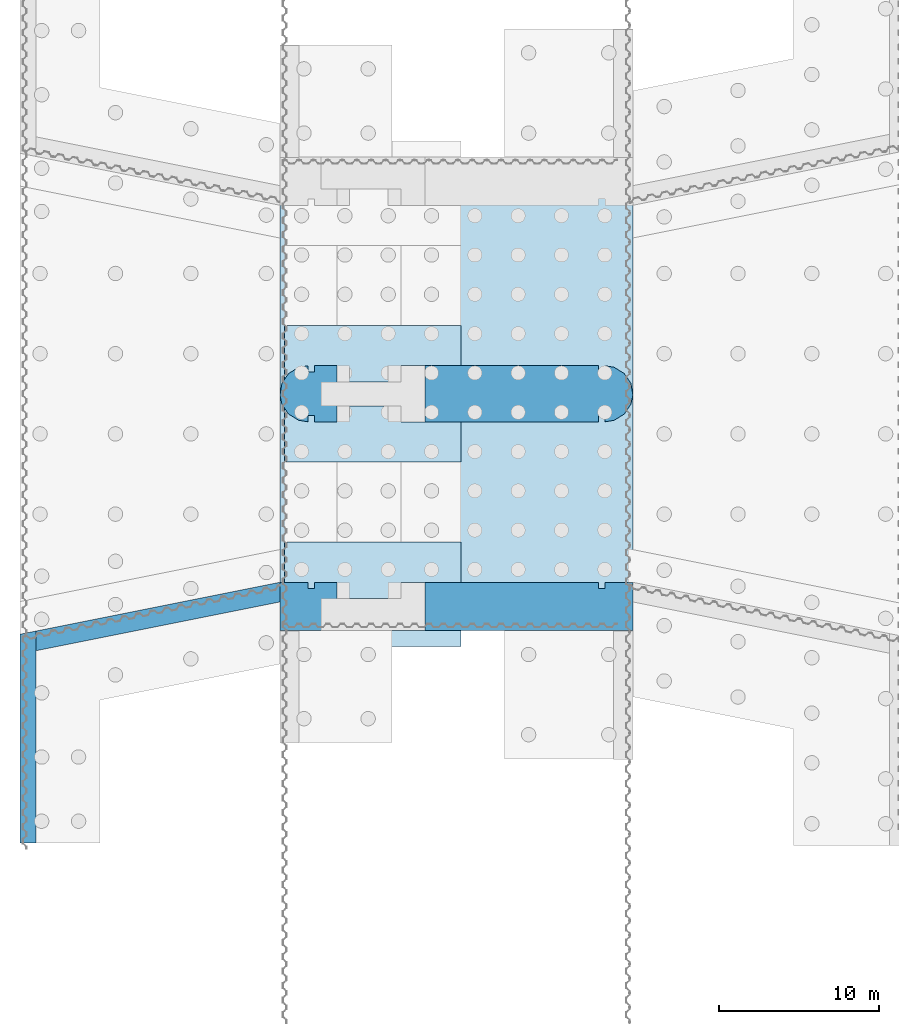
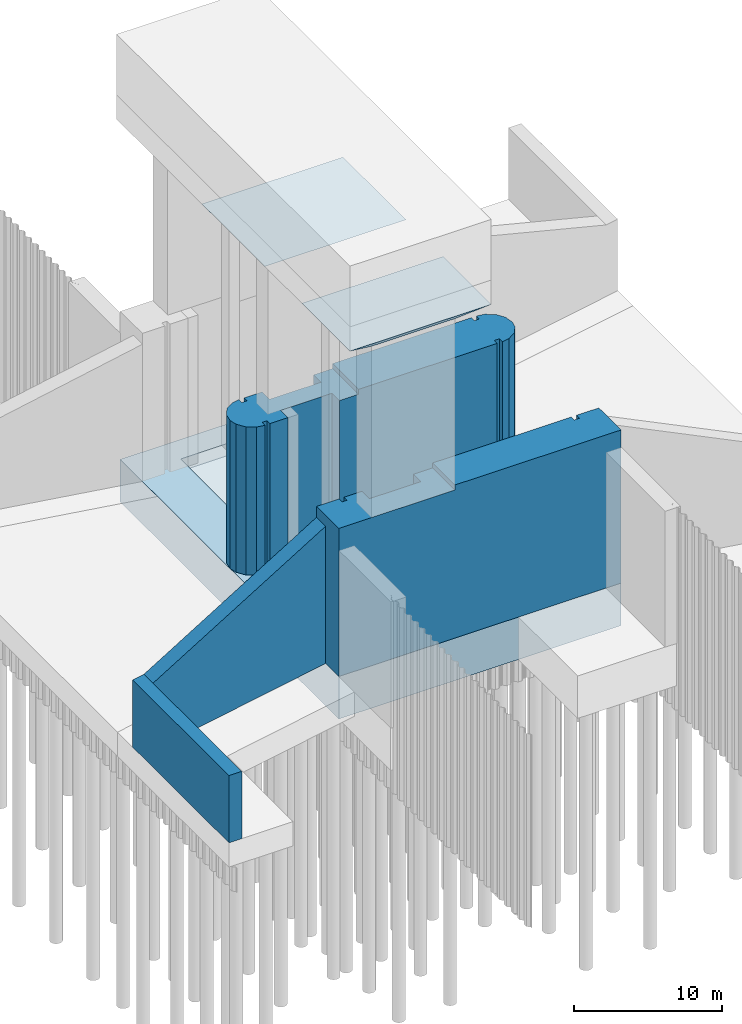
# One storey, part 8 of 9: 6 slabs.
"""IFC2X3 building model written with IfcOpenShell, lengths in millimetres."""

from ifc_helpers import new_model, entity, si_unit, converted_unit, derived_unit, direction, frame, origin, place, context, subcontext, project, spatial, faceted_brep, material, type_object, element, save


model = new_model("IFC2X3")

# Units and contexts
model_context = context("Model", 3, precision=0.01, world=origin(), true_north=direction((6.12303176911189e-17, 1.0)))
body_context = subcontext(model_context, "Body", "Model", "MODEL_VIEW")
ifc_project = project(units=[si_unit("LENGTHUNIT", "METRE", prefix="MILLI"), si_unit("AREAUNIT", "SQUARE_METRE"), si_unit("VOLUMEUNIT", "CUBIC_METRE"), converted_unit("PLANEANGLEUNIT", "DEGREE", entity("IfcRatioMeasure", 0.0174532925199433), si_unit("PLANEANGLEUNIT", "RADIAN"), dimensions=[0, 0, 0, 0, 0, 0, 0]), si_unit("MASSUNIT", "GRAM", prefix="KILO"), derived_unit("MASSDENSITYUNIT", [(si_unit("MASSUNIT", "GRAM", prefix="KILO"), 1), (si_unit("LENGTHUNIT", "METRE"), -3)]), si_unit("TIMEUNIT", "SECOND"), si_unit("FREQUENCYUNIT", "HERTZ"), si_unit("THERMODYNAMICTEMPERATUREUNIT", "DEGREE_CELSIUS"), derived_unit("THERMALTRANSMITTANCEUNIT", [(si_unit("MASSUNIT", "GRAM", prefix="KILO"), 1), (si_unit("THERMODYNAMICTEMPERATUREUNIT", "KELVIN"), -1), (si_unit("TIMEUNIT", "SECOND"), -3)]), derived_unit("VOLUMETRICFLOWRATEUNIT", [(si_unit("LENGTHUNIT", "METRE"), 3), (si_unit("TIMEUNIT", "SECOND"), -1)]), si_unit("ELECTRICCURRENTUNIT", "AMPERE"), si_unit("ELECTRICVOLTAGEUNIT", "VOLT"), si_unit("POWERUNIT", "WATT"), si_unit("FORCEUNIT", "NEWTON", prefix="KILO"), si_unit("ILLUMINANCEUNIT", "LUX"), si_unit("LUMINOUSFLUXUNIT", "LUMEN"), si_unit("LUMINOUSINTENSITYUNIT", "CANDELA"), derived_unit("USERDEFINED", [(si_unit("MASSUNIT", "GRAM", prefix="KILO"), -1), (si_unit("LENGTHUNIT", "METRE"), -2), (si_unit("TIMEUNIT", "SECOND"), 3), (si_unit("LUMINOUSFLUXUNIT", "LUMEN"), 1)]), derived_unit("LINEARVELOCITYUNIT", [(si_unit("LENGTHUNIT", "METRE"), 1), (si_unit("TIMEUNIT", "SECOND"), -1)]), si_unit("PRESSUREUNIT", "PASCAL"), derived_unit("USERDEFINED", [(si_unit("LENGTHUNIT", "METRE"), -2), (si_unit("MASSUNIT", "GRAM", prefix="KILO"), 1), (si_unit("TIMEUNIT", "SECOND"), -2)])], contexts=[model_context])

# Site, building, storey
site_placement = place(None, origin())
site = spatial("IfcSite", under=ifc_project, at=site_placement, Name="Default", CompositionType="ELEMENT")
building_placement = place(site_placement, origin())
building = spatial("IfcBuilding", under=site, at=building_placement, CompositionType="ELEMENT")
storey_placement = place(building_placement, origin())
storey = spatial("IfcBuildingStorey", under=building, at=storey_placement, Name="設計GL", CompositionType="ELEMENT", Elevation=0.0)

# Slabs
ifc_material = material(Name="コンクリート - 現場打ちコンクリート")
slab_type_1 = type_object("IfcSlabType", Name="40001_Co_底版", PredefinedType="FLOOR", material=ifc_material)
slab_1_placement = place(storey_placement, frame((-53111.2636910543, -76292.3079312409, 710.0)))
element("IfcSlab", 1, at=slab_1_placement, inside=storey, type_object=slab_type_1, Name="40001_Co_底版:40001_Co_底版", ObjectType="40001_Co_底版:40001_Co_底版", PredefinedType="FLOOR", context=body_context, shape_type="Brep", body=[
    faceted_brep([(21999.6438906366, 29500.1835320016, 3500.0), (21999.6438906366, 0.0, 3500.0), (21999.6438906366, 0.0, 0.0), (21999.6438906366, 29500.1835320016, 0.0), (0.0, 0.0, 3500.0), (0.0, 0.0, 0.0), (0.0, 29500.1835320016, 0.0), (0.0, 29500.1835320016, 3500.0), (3549.64388791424, 27500.1835320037, 3500.0), (3549.64388791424, 15500.1835320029, 3500.0), (3549.64388791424, 15500.1835320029, 2500.0), (3549.64388791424, 27500.1835320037, 2500.0), (7549.64388791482, 27500.1835320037, 3500.0), (7549.64388791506, 15500.1835320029, 3500.0), (7549.64388791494, 14000.1835320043, 3500.0), (7549.64388791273, 2000.18353200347, 3500.0), (3549.64388791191, 2000.18353200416, 3500.0), (3549.64388791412, 14000.183532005, 3500.0), (7549.64388791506, 15500.1835320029, 2500.0), (7549.64388791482, 27500.1835320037, 2500.0), (7549.64388791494, 14000.1835320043, 2500.0), (7549.64388791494, 2000.18353200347, 2500.0), (3549.64388791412, 14000.183532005, 2500.0), (3549.64388791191, 2000.18353200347, 2500.0)], [[[0, 1, 2, 3]], [[1, 4, 5, 2]], [[2, 5, 6, 3]], [[7, 0, 3, 6]], [[4, 7, 6, 5]], [[8, 9, 10, 11]], [[4, 1, 0, 7], [9, 8, 12, 13], [14, 15, 16, 17]], [[9, 13, 18, 10]], [[19, 11, 10, 18]], [[12, 8, 11, 19]], [[13, 12, 19, 18]], [[15, 14, 20, 21]], [[14, 17, 22, 20]], [[23, 21, 20, 22]], [[16, 15, 21, 23]], [[17, 16, 23, 22]]]),
])
slab_type_2 = type_object("IfcSlabType", Name="41101_Co_端堰柱(下流)", PredefinedType="FLOOR", material=ifc_material)
slab_2_placement = place(storey_placement, frame((-53111.2636910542, -76292.3079312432, 4210.0)))
element("IfcSlab", 2, at=slab_2_placement, inside=storey, type_object=slab_type_2, Name="41101_Co_端堰柱(下流):41101_Co_端堰柱(下流)", ObjectType="41101_Co_端堰柱(下流):41101_Co_端堰柱(下流)", PredefinedType="FLOOR", context=body_context, shape_type="Brep", body=[
    faceted_brep([(9050.0, 1.35141817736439e-09, 12200.0), (9050.0, 3000.0, 12200.0), (7550.0, 3000.0, 12200.0), (7550.0, 2000.0, 12200.0), (3550.0, 2000.0, 12200.0), (3550.0, 3000.0, 12200.0), (2150.0, 3000.0, 12200.0), (2150.0, 2600.0, 12200.0), (1750.0, 2600.0, 12200.0), (1750.0, 3000.0, 12200.0), (0.0, 3000.0, 12200.0), (0.0, 2.31300418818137e-09, 12200.0), (1750.0, 3000.0, 0.0), (0.0, 3000.0, 0.0), (1750.0, 2600.0, 0.0), (2150.0, 2600.0, 0.0), (2150.0, 3000.0, 0.0), (3550.0, 3000.0, 0.0), (3550.0, 2000.0, 0.0), (7550.0, 2000.0, 0.0), (7550.0, 3000.0, 0.0), (0.0, 2.31300418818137e-09, 0.0), (19850.0, 3000.0, 0.0), (19850.0, 2600.0, 0.0), (20250.0, 2600.0, 0.0), (20250.0, 3000.0, 0.0), (22000.0, 3000.0, 0.0), (22000.0, 0.0, 0.0), (22000.0, 3000.0, 12610.0), (22000.0, 0.0, 12610.0), (9050.0, 1.35141817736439e-09, 12610.0), (9050.0, 3000.0, 12610.0), (19850.0, 3000.0, 12610.0), (19850.0, 2600.0, 12610.0), (20250.0, 2600.0, 12610.0), (20250.0, 3000.0, 12610.0)], [[[0, 1, 2, 3, 4, 5, 6, 7, 8, 9, 10, 11]], [[12, 13, 10, 9]], [[14, 12, 9, 8]], [[15, 14, 8, 7]], [[16, 15, 7, 6]], [[17, 16, 6, 5]], [[18, 17, 5, 4]], [[19, 18, 4, 3]], [[20, 19, 3, 2]], [[13, 21, 11, 10]], [[21, 13, 12, 14, 15, 16, 17, 18, 19, 20, 22, 23, 24, 25, 26, 27]], [[26, 28, 29, 27]], [[27, 29, 30, 0, 11, 21]], [[1, 0, 30, 31]], [[1, 31, 32, 22, 20, 2]], [[22, 32, 33, 23]], [[23, 33, 34, 24]], [[24, 34, 35, 25]], [[25, 35, 28, 26]], [[28, 35, 34, 33, 32, 31, 30, 29]]]),
])
slab_type_3 = type_object("IfcSlabType", Name="41201_Co_中央堰柱", PredefinedType="FLOOR", material=ifc_material)
slab_3_placement = place(storey_placement, frame((-53111.2821539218, -63293.9032035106, 4210.0)))
element("IfcSlab", 3, at=slab_3_placement, inside=storey, type_object=slab_type_3, Name="41201_Co_中央堰柱:41201_Co_中央堰柱", ObjectType="41201_Co_中央堰柱:41201_Co_中央堰柱", PredefinedType="FLOOR", context=body_context, shape_type="Brep", body=[
    faceted_brep([(1750.01846309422, 401.595272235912, 12200.0), (2150.01846309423, 401.59527223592, 12200.0), (2150.01846309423, 1.59527223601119, 12200.0), (3550.01846583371, 1.59527223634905, 12200.0), (3550.01846583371, 1001.59527223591, 12200.0), (7550.01846583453, 1001.59527223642, 12200.0), (7550.01846583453, 1.59527223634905, 12200.0), (9050.01846289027, 1.59527226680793, 12200.0), (9050.01846289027, 3501.59527223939, 12200.0), (7550.01846583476, 3501.59527223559, 12200.0), (7550.01846583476, 2501.59527223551, 12200.0), (3550.01846583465, 2501.59527226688, 12200.0), (3550.01846583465, 3501.59527226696, 12200.0), (2150.01846309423, 3501.59527223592, 12200.0), (2150.01846309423, 3101.5952722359, 12200.0), (1750.01846309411, 3101.59527223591, 12200.0), (1750.01846309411, 3501.59527223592, 12200.0), (1458.52114269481, 3451.61303701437, 12200.0), (1167.02382229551, 3401.63080179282, 12200.0), (853.074632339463, 3208.32461922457, 12200.0), (539.125442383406, 3015.01843665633, 12200.0), (332.669053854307, 2709.5562725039, 12200.0), (126.212665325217, 2404.09410835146, 12200.0), (63.9039687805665, 2040.70863749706, 12200.0), (1.5952722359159, 1677.32316664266, 12200.0), (63.9039687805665, 1388.20980138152, 12200.0), (126.212665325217, 1099.09643612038, 12200.0), (332.669053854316, 793.634271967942, 12200.0), (539.125442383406, 488.1721078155, 12200.0), (853.074632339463, 294.865925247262, 12200.0), (1167.02382229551, 101.559742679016, 12200.0), (1458.5211426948, 51.5775074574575, 12200.0), (1750.018463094, 1.5952722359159, 12200.0), (7550.01846583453, 1001.59527223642, 0.0), (7550.01846583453, 1.59527223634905, 0.0), (7550.01846583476, 3501.59527223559, 0.0), (7550.01846583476, 2501.59527223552, 0.0), (3550.01846583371, 1001.59527223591, 0.0), (3550.01846583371, 1.59527223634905, 0.0), (3550.01846583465, 2501.59527226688, 0.0), (3550.01846583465, 3501.59527226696, 0.0), (2150.01846309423, 1.59527223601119, 0.0), (19850.0184668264, 1.59527226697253, 0.0), (19850.0184668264, 1.59527226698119, 12610.0), (9050.01846289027, 1.59527226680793, 12610.0), (2150.01846309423, 401.59527223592, 0.0), (2150.01846309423, 3501.59527223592, 0.0), (2150.01846309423, 3101.5952722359, 0.0), (1750.01846309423, 401.59527223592, 0.0), (19850.0184668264, 401.595272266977, 12610.0), (19850.0184668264, 401.595272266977, 0.0), (20250.0184685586, 401.595272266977, 0.0), (20250.0184685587, 401.595272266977, 12610.0), (1750.018463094, 1.5952722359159, 0.0), (1750.01846309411, 3101.59527223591, 0.0), (1750.01846309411, 3501.59527223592, 0.0), (1458.52114269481, 3451.61303701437, 0.0), (1167.02382229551, 3401.63080179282, 0.0), (853.074632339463, 3208.32461922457, 0.0), (539.125442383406, 3015.01843665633, 0.0), (1.5952722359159, 1677.32316664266, 0.0), (63.9039687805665, 1388.20980138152, 0.0), (126.212665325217, 1099.09643612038, 0.0), (332.669053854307, 2709.5562725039, 0.0), (126.212665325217, 2404.09410835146, 0.0), (63.9039687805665, 2040.70863749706, 0.0), (332.669053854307, 793.634271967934, 0.0), (539.125442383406, 488.1721078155, 0.0), (1353.85820144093, 69.5237710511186, 0.0), (1167.02382229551, 101.559742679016, 0.0), (853.074632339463, 294.865925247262, 0.0), (20250.0184685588, 3101.59527226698, 12610.0), (20250.0184685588, 3101.59527226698, 0.0), (19850.0184668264, 3101.59527226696, 0.0), (19850.0184668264, 3101.59527226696, 12610.0), (19850.0184668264, 3501.59527226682, 12610.0), (19850.0184668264, 3501.59527226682, 0.0), (9050.01846289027, 3501.59527223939, 12610.0), (20250.0184685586, 3501.59527226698, 0.0), (20541.5157889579, 3451.61303704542, 0.0), (20833.0131093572, 3401.63080182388, 0.0), (21146.9622993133, 3208.32461925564, 0.0), (21460.9114892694, 3015.0184366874, 0.0), (21667.3678777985, 2709.55627253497, 0.0), (21873.8242663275, 2404.09410838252, 0.0), (21936.1329628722, 2040.70863752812, 0.0), (21998.4416594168, 1677.32316667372, 0.0), (21936.1329628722, 1388.20980141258, 0.0), (21873.8242663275, 1099.09643615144, 0.0), (21667.3678777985, 793.634271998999, 0.0), (21460.9114892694, 488.172107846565, 0.0), (21146.9622993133, 294.865925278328, 0.0), (20833.0131093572, 101.559742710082, 0.0), (20541.515788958, 51.5775074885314, 0.0), (20250.0184685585, 1.59527226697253, 0.0), (20541.515788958, 51.5775074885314, 12610.0), (20250.0184685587, 1.59527226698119, 12610.0), (20833.0131093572, 101.559742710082, 12610.0), (21460.9114892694, 488.172107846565, 12610.0), (21873.8242663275, 1099.09643615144, 12610.0), (21667.3678777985, 793.634271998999, 12610.0), (21146.9622993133, 294.865925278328, 12610.0), (21460.9114892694, 3015.0184366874, 12610.0), (20833.0131093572, 3401.63080182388, 12610.0), (21146.9622993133, 3208.32461925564, 12610.0), (21936.1329628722, 1388.20980141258, 12610.0), (21998.4416594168, 1677.32316667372, 12610.0), (21873.8242663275, 2404.09410838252, 12610.0), (21936.1329628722, 2040.70863752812, 12610.0), (21667.3678777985, 2709.55627253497, 12610.0), (20250.0184685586, 3501.59527226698, 12610.0), (20633.2980238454, 3435.8753923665, 12610.0)], [[[0, 1, 2, 3, 4, 5, 6, 7, 8, 9, 10, 11, 12, 13, 14, 15, 16, 17, 18, 19, 20, 21, 22, 23, 24, 25, 26, 27, 28, 29, 30, 31, 32]], [[5, 33, 34, 6]], [[9, 35, 36, 10]], [[4, 37, 33, 5]], [[3, 38, 37, 4]], [[11, 39, 40, 12]], [[2, 41, 38, 3]], [[7, 6, 34, 42, 43, 44]], [[1, 45, 41, 2]], [[13, 46, 47, 14]], [[0, 48, 45, 1]], [[49, 50, 51, 52]], [[32, 53, 48, 0]], [[15, 54, 55, 16]], [[55, 56, 57, 18, 17, 16]], [[20, 19, 18, 57, 58, 59]], [[25, 24, 60, 61, 62, 26]], [[59, 63, 64, 22, 21, 20]], [[24, 23, 22, 64, 65, 60]], [[66, 67, 28, 27, 26, 62]], [[68, 53, 32, 31, 30, 69]], [[67, 70, 69, 30, 29, 28]], [[14, 47, 54, 15]], [[71, 72, 73, 74]], [[12, 40, 46, 13]], [[75, 76, 35, 9, 8, 77]], [[10, 36, 39, 11]], [[48, 53, 68, 69, 70, 67, 66, 62, 61, 60, 65, 64, 63, 59, 58, 57, 56, 55, 54, 47, 46, 40, 39, 36, 35, 76, 73, 72, 78, 79, 80, 81, 82, 83, 84, 85, 86, 87, 88, 89, 90, 91, 92, 93, 94, 51, 50, 42, 34, 33, 37, 38, 41, 45]], [[95, 96, 94, 93, 92, 97]], [[98, 90, 89, 88, 99, 100]], [[90, 98, 101, 97, 92, 91]], [[102, 82, 81, 80, 103, 104]], [[105, 99, 88, 87, 86, 106]], [[84, 107, 108, 106, 86, 85]], [[109, 107, 84, 83, 82, 102]], [[79, 78, 110, 111, 103, 80]], [[52, 51, 94, 96]], [[110, 78, 72, 71]], [[43, 42, 50, 49]], [[74, 73, 76, 75]], [[77, 8, 7, 44]], [[44, 43, 49, 52, 96, 95, 97, 101, 98, 100, 99, 105, 106, 108, 107, 109, 102, 104, 103, 111, 110, 71, 74, 75, 77]]]),
])
slab_type_4 = type_object("IfcSlabType", Name="41801_Co_川表翼壁(下流)側壁", PredefinedType="FLOOR", material=ifc_material)
slab_4_placement = place(storey_placement, frame((-69312.6693128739, -89532.3079312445, 4210.0)))
element("IfcSlab", 4, at=slab_4_placement, inside=storey, type_object=slab_type_4, Name="41801_Co_川表翼壁(下流)側壁:41801_Co_川表翼壁(下流)側壁", ObjectType="41801_Co_川表翼壁(下流)側壁:41801_Co_川表翼壁(下流)側壁", PredefinedType="FLOOR", context=body_context, shape_type="Brep", body=[
    faceted_brep([(1000.0, 11976.2353167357, 0.0), (1000.0, 11976.2353167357, 5540.0), (1000.0, 0.0, 5540.0), (1000.0, 0.0, 0.0), (0.0, 0.0, 0.0), (0.0, 0.0, 5540.0), (0.0, 13000.0, 0.0), (0.0, 13000.0, 5540.0), (1000.0, 13200.0, 5540.0), (16200.0, 16240.0, 11300.0), (16200.0, 16240.0, 0.0), (16200.0, 15016.2353167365, 11300.0), (16200.0, 15016.2353167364, 0.0)], [[[0, 1, 2, 3]], [[4, 3, 2, 5]], [[6, 4, 5, 7]], [[7, 5, 2, 1, 8]], [[8, 9, 10, 6, 7]], [[11, 1, 0, 12]], [[1, 11, 9, 8]], [[11, 12, 10, 9]], [[12, 0, 3, 4, 6, 10]]]),
])
slab_type_5 = type_object("IfcSlabType", Name="60401_Co_操作台(中央)", PredefinedType="FLOOR", material=ifc_material)
slab_5_placement = place(storey_placement, frame((-52811.2636880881, -65792.3079315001, 30520.0)))
element("IfcSlab", 5, at=slab_5_placement, inside=storey, type_object=slab_type_5, Name="60401_Co_操作台(中央):60401_Co_操作台(中央)", ObjectType="60401_Co_操作台(中央):60401_Co_操作台(中央)", PredefinedType="FLOOR", context=body_context, shape_type="Brep", body=[
    faceted_brep([(0.0, 8500.0, 1000.0), (0.0, 0.0, 1000.0), (11000.0, 0.0, 1000.0), (11000.0, 8500.0, 1000.0), (2250.0, 2500.0, 1.58098600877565e-09), (2250.0, 6000.0, 1.58098600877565e-09), (8750.0, 6000.0, 1.58098600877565e-09), (8750.0, 2500.0, 1.58098600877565e-09)], [[[0, 1, 2, 3]], [[4, 5, 6, 7]], [[5, 4, 1, 0]], [[6, 5, 0, 3]], [[7, 6, 3, 2]], [[4, 7, 2, 1]]]),
])
slab_type_6 = type_object("IfcSlabType", Name="60301_Co_操作台(下流)", PredefinedType="FLOOR", material=ifc_material)
slab_6_placement = place(storey_placement, frame((-52811.2636880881, -77292.3079314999, 30520.0)))
element("IfcSlab", 6, at=slab_6_placement, inside=storey, type_object=slab_type_6, Name="60301_Co_操作台(下流):60301_Co_操作台(下流)", ObjectType="60301_Co_操作台(下流):60301_Co_操作台(下流)", PredefinedType="FLOOR", context=body_context, shape_type="Brep", body=[
    faceted_brep([(11000.0, 6500.0, 1000.0), (0.0, 6500.0, 1000.0), (0.0, 0.0, 1000.0), (11000.0, 0.0, 1000.0), (2250.0, 4000.0, 2.25236362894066e-09), (8750.0, 4000.0, 2.25236362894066e-09), (8750.0, 1000.0, 2.25236362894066e-09), (2250.0, 1000.0, 2.25236362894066e-09)], [[[0, 1, 2, 3]], [[4, 5, 6, 7]], [[5, 4, 1, 0]], [[4, 7, 2, 1]], [[7, 6, 3, 2]], [[6, 5, 0, 3]]]),
])

save(model, "model.ifc")
